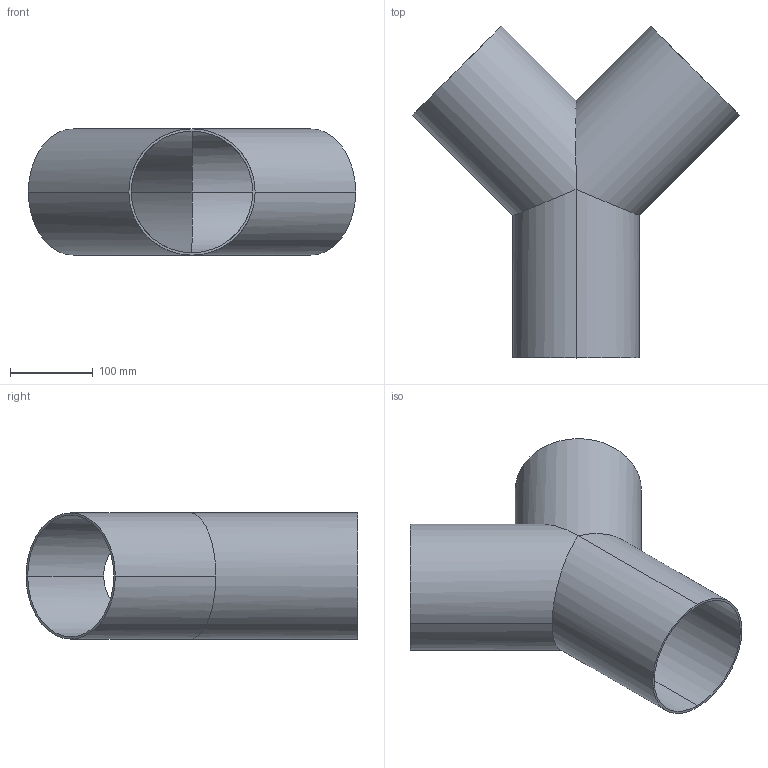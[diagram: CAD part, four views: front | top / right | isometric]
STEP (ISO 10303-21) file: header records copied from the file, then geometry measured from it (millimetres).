
FILE_DESCRIPTION (( 'STEP AP203' ), '1' );
FILE_NAME ('E28WB6.0.STEP', '2018-05-04T12:54:11', ( 'vneprd' ), ( 'Microsoft' ), 'SwSTEP 2.0', 'SolidWorks 2014', '' );
FILE_SCHEMA (( 'CONFIG_CONTROL_DESIGN' ));
Length unit declared in the file: inch
Products named in the file (1): E28WB6.0
Bounding box: 395.13 x 400.77 x 152.4 mm (x, y, z)
Volume: 680020.7 mm3; surface area: 495123.7 mm2
Topology: 1 solids, 1 shells, 15 faces, 36 edges, 22 vertices
Faces by surface type: cylinder 12, plane 3
Entity records: 521 total; most frequent: CARTESIAN_POINT 110, ORIENTED_EDGE 72, DIRECTION 68, EDGE_CURVE 36, AXIS2_PLACEMENT_3D 28, VERTEX_POINT 22, EDGE_LOOP 18, FACE_OUTER_BOUND 15
